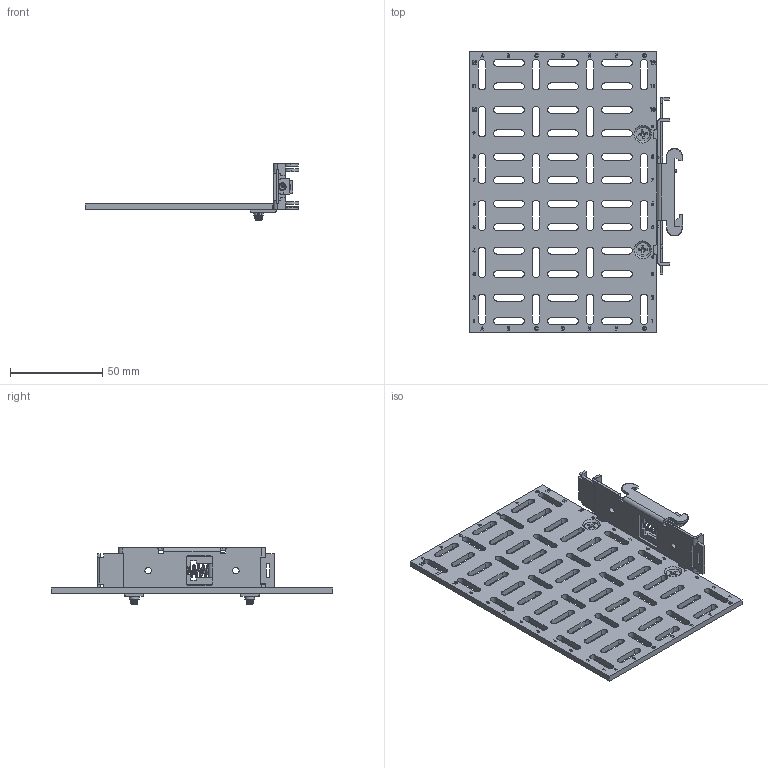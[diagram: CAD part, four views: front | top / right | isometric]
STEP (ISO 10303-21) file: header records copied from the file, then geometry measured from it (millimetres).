
FILE_DESCRIPTION (( 'STEP AP214' ), '1' );
FILE_NAME ('dinp03-4060c_rev_a.stp', '2020-05-05T17:56:35', ( '' ), ( '' ), 'SwSTEP 2.0', 'SolidWorks 2017', '' );
FILE_SCHEMA (( 'AUTOMOTIVE_DESIGN' ));
Length unit declared in the file: inch
Products named in the file (4): dinm30; Dinp03-4060c Board; M4 8mm FH_92010A218; dinp03-4060c_rev_a
Assembly tree (4 placements, depth 2):
  dinp03-4060c_rev_a
    Dinp03-4060c Board
    dinm30
    M4 8mm FH_92010A218  x2
Bounding box: 115.67 x 152.4 x 30.82 mm (x, y, z)
Volume: 44678.2 mm3; surface area: 43853.6 mm2
Topology: 6 solids, 6 shells, 2821 faces, 7524 edges, 4925 vertices
Faces by surface type: plane 1507, bspline 817, cylinder 455, cone 42
Entity records: 158387 total; most frequent: CARTESIAN_POINT 67050, ORIENTED_EDGE 14628, DIRECTION 10391, EDGE_CURVE 7314, VECTOR 4861, LINE 4861, VERTEX_POINT 4795, EDGE_LOOP 3113
